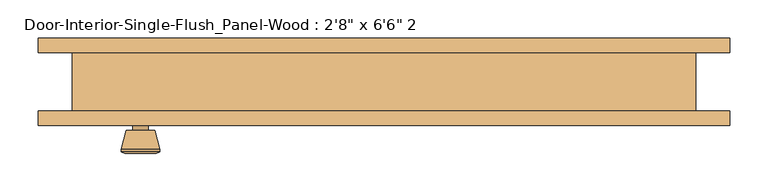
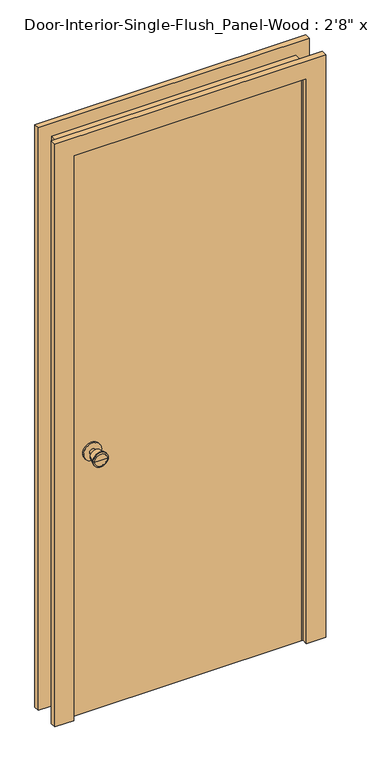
"""IFC4 building model written with IfcOpenShell, lengths in millimetres: door geometry."""

from ifc_helpers import new_model, si_unit, point, frame, frame_2d, origin, origin_with_axes, place, context, project, spatial, polyline, circle_curve, trimmed, segment, composite_curve, outline, extrude, faceted_brep, source, transform, mapped, element, save
from ifc_brep_helpers import plane_surface, cylinder_surface, revolved_surface, advanced_brep


def door_e4af89d0(model_context):
    return source(origin(), model_context, "Body", "SolidModel", [
        advanced_brep(
        [(-317.5, 6.0, 914.4), (-327.5, 6.0, 914.4), (-307.5, 6.0, 914.4), (-297.0241324, 55.0, 914.4), (-337.9758676, 55.0, 914.4), (-317.5, 55.0, 914.4), (-292.5, 53.1721319, 914.4), (-342.5, 53.1721319, 914.4), (-292.5, 49.7084537, 914.4), (-342.5, 49.7084537, 914.4), (-298.863764, 25.0, 914.4), (-336.136236, 25.0, 914.4), (-307.5, 25.0, 914.4), (-327.5, 25.0, 914.4)],
        [
            (0, 1),
            (1, 2, circle_curve(frame((-317.5, 6.0, 914.4), z_axis=(0.0, -1.0, 0.0), x_axis=(-1.0, 0.0, 0.0)), 10.0)),
            (2, 0),
            (2, 1, circle_curve(frame((-317.5, 6.0, 914.4), z_axis=(0.0, -1.0, 0.0), x_axis=(-1.0, 0.0, 0.0)), 10.0)),
            (3, 4, circle_curve(frame((-317.5, 55.0, 914.4), z_axis=(0.0, 1.0, 0.0), x_axis=(-1.0, 0.0, 0.0)), 20.4758676)),
            (4, 5),
            (5, 3),
            (4, 3, circle_curve(frame((-317.5, 55.0, 914.4), z_axis=(0.0, 1.0, 0.0), x_axis=(-1.0, 0.0, 0.0)), 20.4758676)),
            (6, 7, circle_curve(frame((-317.5, 53.1721319, 914.4), z_axis=(0.0, 1.0, 0.0), x_axis=(-1.0, 0.0, 0.0)), 25.0)),
            (7, 4),
            (3, 6),
            (7, 6, circle_curve(frame((-317.5, 53.1721319, 914.4), z_axis=(0.0, 1.0, 0.0), x_axis=(-1.0, 0.0, 0.0)), 25.0)),
            (8, 9, circle_curve(frame((-317.5, 49.7084537, 914.4), z_axis=(0.0, 1.0, 0.0), x_axis=(-1.0, 0.0, 0.0)), 25.0)),
            (9, 7),
            (6, 8),
            (9, 8, circle_curve(frame((-317.5, 49.7084537, 914.4), z_axis=(0.0, 1.0, 0.0), x_axis=(-1.0, 0.0, 0.0)), 25.0)),
            (10, 11, circle_curve(frame((-317.5, 25.0, 914.4), z_axis=(0.0, 1.0, 0.0), x_axis=(-1.0, 0.0, 0.0)), 18.636236)),
            (11, 9),
            (8, 10),
            (11, 10, circle_curve(frame((-317.5, 25.0, 914.4), z_axis=(0.0, 1.0, 0.0), x_axis=(-1.0, 0.0, 0.0)), 18.636236)),
            (12, 13, circle_curve(frame((-317.5, 25.0, 914.4), z_axis=(0.0, 1.0, 0.0), x_axis=(-1.0, 0.0, 0.0)), 10.0)),
            (13, 11),
            (10, 12),
            (13, 12, circle_curve(frame((-317.5, 25.0, 914.4), z_axis=(0.0, 1.0, 0.0), x_axis=(-1.0, 0.0, 0.0)), 10.0)),
            (1, 13),
            (12, 2),
        ],
        [
            plane_surface(frame((-317.5, 6.0, 914.4), z_axis=(0.0, -1.0, 0.0), x_axis=(-1.0, 0.0, 0.0))),
            plane_surface(frame((-317.5, 55.0, 914.4), z_axis=(0.0, 1.0, 0.0), x_axis=(-1.0, 0.0, 0.0))),
            revolved_surface(polyline([(-337.9758676, 55.0, 914.4), (-342.5, 53.1721319, 914.4)]), (-317.5, 6.0, 914.4), (0.0, -1.0, 0.0)),
            cylinder_surface(frame((-317.5, 6.0, 914.4), z_axis=(0.0, -1.0, 0.0), x_axis=(-1.0, 0.0, 0.0)), 25.0),
            revolved_surface(polyline([(-342.5, 49.7084537, 914.4), (-336.136236, 25.0, 914.4)]), (-317.5, 6.0, 914.4), (0.0, -1.0, 0.0)),
            plane_surface(frame((-317.5, 25.0, 914.4), z_axis=(0.0, -1.0, 0.0), x_axis=(-1.0, 0.0, 0.0))),
            cylinder_surface(frame((-317.5, 6.0, 914.4), z_axis=(0.0, -1.0, 0.0), x_axis=(-1.0, 0.0, 0.0)), 10.0),
        ],
        [
            (0, [[1, 2, 3]]),
            (0, [[-3, 4, -1]]),
            (1, [[5, 6, 7]]),
            (1, [[8, -7, -6]]),
            (2, [[9, 10, -5, 11]]),
            (2, [[12, -11, -8, -10]]),
            (3, [[13, 14, -9, 15]]),
            (3, [[16, -15, -12, -14]]),
            (4, [[17, 18, -13, 19]]),
            (4, [[20, -19, -16, -18]]),
            (5, [[21, 22, -17, 23]]),
            (5, [[24, -23, -20, -22]]),
            (6, [[-2, 25, -21, 26]]),
            (6, [[-4, -26, -24, -25]]),
        ],
    ),
        extrude(outline(composite_curve([segment(trimmed(circle_curve(frame_2d((914.4, -317.5)), 30.0), [point((914.4, -347.5))], [point((914.4, -287.5))], False, "CARTESIAN"), True, "CONTINUOUS"), segment(trimmed(circle_curve(frame_2d((914.4, -317.5)), 30.0), [point((914.4, -287.5))], [point((914.4, -347.5))], False, "CARTESIAN"), True, "CONTINUOUS")], self_intersect=False)), frame((0.0, 0.0, 0.0), z_axis=(0.0, 1.0, 0.0), x_axis=(0.0, 0.0, 1.0)), (0.0, 0.0, 1.0), 6.0),
        advanced_brep(
        [(-317.5, -40.925, 914.4), (-307.5, -40.925, 914.4), (-327.5, -40.925, 914.4), (-297.0241324, -89.925, 914.4), (-317.5, -89.925, 914.4), (-337.9758676, -89.925, 914.4), (-292.5, -88.0971319, 914.4), (-342.5, -88.0971319, 914.4), (-292.5, -84.6334537, 914.4), (-342.5, -84.6334537, 914.4), (-298.863764, -59.925, 914.4), (-336.136236, -59.925, 914.4), (-307.5, -59.925, 914.4), (-327.5, -59.925, 914.4)],
        [
            (0, 1),
            (1, 2, circle_curve(frame((-317.5, -40.925, 914.4), z_axis=(0.0, 1.0, 0.0), x_axis=(-1.0, 0.0, 0.0)), 10.0)),
            (2, 0),
            (2, 1, circle_curve(frame((-317.5, -40.925, 914.4), z_axis=(0.0, 1.0, 0.0), x_axis=(-1.0, 0.0, 0.0)), 10.0)),
            (3, 4),
            (4, 5),
            (5, 3, circle_curve(frame((-317.5, -89.925, 914.4), z_axis=(0.0, -1.0, 0.0), x_axis=(-1.0, 0.0, 0.0)), 20.4758676)),
            (3, 5, circle_curve(frame((-317.5, -89.925, 914.4), z_axis=(0.0, -1.0, 0.0), x_axis=(-1.0, 0.0, 0.0)), 20.4758676)),
            (6, 3),
            (5, 7),
            (7, 6, circle_curve(frame((-317.5, -88.0971319, 914.4), z_axis=(0.0, -1.0, 0.0), x_axis=(-1.0, 0.0, 0.0)), 25.0)),
            (6, 7, circle_curve(frame((-317.5, -88.0971319, 914.4), z_axis=(0.0, -1.0, 0.0), x_axis=(-1.0, 0.0, 0.0)), 25.0)),
            (8, 6),
            (7, 9),
            (9, 8, circle_curve(frame((-317.5, -84.6334537, 914.4), z_axis=(0.0, -1.0, 0.0), x_axis=(-1.0, 0.0, 0.0)), 25.0)),
            (8, 9, circle_curve(frame((-317.5, -84.6334537, 914.4), z_axis=(0.0, -1.0, 0.0), x_axis=(-1.0, 0.0, 0.0)), 25.0)),
            (10, 8),
            (9, 11),
            (11, 10, circle_curve(frame((-317.5, -59.925, 914.4), z_axis=(0.0, -1.0, 0.0), x_axis=(-1.0, 0.0, 0.0)), 18.636236)),
            (10, 11, circle_curve(frame((-317.5, -59.925, 914.4), z_axis=(0.0, -1.0, 0.0), x_axis=(-1.0, 0.0, 0.0)), 18.636236)),
            (12, 10),
            (11, 13),
            (13, 12, circle_curve(frame((-317.5, -59.925, 914.4), z_axis=(0.0, -1.0, 0.0), x_axis=(-1.0, 0.0, 0.0)), 10.0)),
            (12, 13, circle_curve(frame((-317.5, -59.925, 914.4), z_axis=(0.0, -1.0, 0.0), x_axis=(-1.0, 0.0, 0.0)), 10.0)),
            (1, 12),
            (13, 2),
        ],
        [
            plane_surface(frame((-317.5, -40.925, 914.4), z_axis=(0.0, 1.0, 0.0), x_axis=(-1.0, 0.0, 0.0))),
            plane_surface(frame((-317.5, -89.925, 914.4), z_axis=(0.0, -1.0, 0.0), x_axis=(-1.0, 0.0, 0.0))),
            revolved_surface(polyline([(-337.9758676, -89.925, 914.4), (-342.5, -88.0971319, 914.4)]), (-317.5, -40.925, 914.4), (0.0, 1.0, 0.0)),
            cylinder_surface(frame((-317.5, -40.925, 914.4), z_axis=(0.0, 1.0, 0.0), x_axis=(-1.0, 0.0, 0.0)), 25.0),
            revolved_surface(polyline([(-342.5, -84.6334537, 914.4), (-336.136236, -59.925, 914.4)]), (-317.5, -40.925, 914.4), (0.0, 1.0, 0.0)),
            plane_surface(frame((-317.5, -59.925, 914.4), z_axis=(0.0, 1.0, 0.0), x_axis=(-1.0, 0.0, 0.0))),
            cylinder_surface(frame((-317.5, -40.925, 914.4), z_axis=(0.0, 1.0, 0.0), x_axis=(-1.0, 0.0, 0.0)), 10.0),
        ],
        [
            (0, [[1, 2, 3]]),
            (0, [[-3, 4, -1]]),
            (1, [[5, 6, 7]]),
            (1, [[-6, -5, 8]]),
            (2, [[9, -7, 10, 11]]),
            (2, [[-10, -8, -9, 12]]),
            (3, [[13, -11, 14, 15]]),
            (3, [[-14, -12, -13, 16]]),
            (4, [[17, -15, 18, 19]]),
            (4, [[-18, -16, -17, 20]]),
            (5, [[21, -19, 22, 23]]),
            (5, [[-22, -20, -21, 24]]),
            (6, [[25, -23, 26, -2]]),
            (6, [[-26, -24, -25, -4]]),
        ],
    ),
        extrude(outline(composite_curve([segment(trimmed(circle_curve(frame_2d((914.4, -317.5)), 30.0), [point((914.4, -347.5))], [point((914.4, -287.5))], False, "CARTESIAN"), True, "CONTINUOUS"), segment(trimmed(circle_curve(frame_2d((914.4, -317.5)), 30.0), [point((914.4, -287.5))], [point((914.4, -347.5))], False, "CARTESIAN"), True, "CONTINUOUS")], self_intersect=False)), frame((0.0, -40.925, 0.0), z_axis=(0.0, 1.0, 0.0), x_axis=(0.0, 0.0, 1.0)), (0.0, 0.0, 1.0), 6.0),
        extrude(outline(polyline([(381.0, 0.0), (381.0, -34.925), (-381.0, -34.925), (-381.0, 0.0), (381.0, 0.0)])), origin_with_axes(), (0.0, 0.0, 1.0), 1981.2),
        faceted_brep([(406.4, -34.925, 0.0), (381.0, -34.925, 0.0), (381.0, 0.0, 0.0), (368.3, 0.0, 0.0), (368.3, 34.925, 0.0), (381.0, 34.925, 0.0), (381.0, 41.275, 0.0), (406.4, 41.275, 0.0), (406.4, 41.275, 2006.6), (406.4, -34.925, 2006.6), (381.0, 41.275, 1981.2), (-381.0, 41.275, 1981.2), (-381.0, 41.275, 0.0), (-406.4, 41.275, 0.0), (-406.4, 41.275, 2006.6), (381.0, 34.925, 1981.2), (368.3, 34.925, 1968.5), (-368.3, 34.925, 1968.5), (-368.3, 34.925, 0.0), (-381.0, 34.925, 0.0), (-381.0, 34.925, 1981.2), (368.3, 0.0, 1968.5), (381.0, 0.0, 1981.2), (-381.0, 0.0, 1981.2), (-381.0, 0.0, 0.0), (-368.3, 0.0, 0.0), (-368.3, 0.0, 1968.5), (381.0, -34.925, 1981.2), (-406.4, -34.925, 2006.6), (-406.4, -34.925, 0.0), (-381.0, -34.925, 0.0), (-381.0, -34.925, 1981.2)], [[[0, 1, 2, 3, 4, 5, 6, 7]], [[7, 8, 9, 0]], [[6, 10, 11, 12, 13, 14, 8, 7]], [[5, 15, 10, 6]], [[4, 16, 17, 18, 19, 20, 15, 5]], [[3, 21, 16, 4]], [[2, 22, 23, 24, 25, 26, 21, 3]], [[1, 27, 22, 2]], [[0, 9, 28, 29, 30, 31, 27, 1]], [[8, 14, 28, 9]], [[15, 20, 11, 10]], [[21, 26, 17, 16]], [[27, 31, 23, 22]], [[29, 13, 12, 19, 18, 25, 24, 30]], [[14, 13, 29, 28]], [[20, 19, 12, 11]], [[26, 25, 18, 17]], [[31, 30, 24, 23]]]),
        extrude(outline(polyline([(0.0, 450.85), (2051.05, 450.85), (2051.05, -450.85), (0.0, -450.85), (0.0, -387.35), (1987.55, -387.35), (1987.55, 387.35), (0.0, 387.35), (0.0, 450.85)])), frame((0.0, 41.275, 0.0), z_axis=(0.0, 1.0, 0.0), x_axis=(0.0, 0.0, 1.0)), (0.0, 0.0, 1.0), 19.05),
        extrude(outline(polyline([(0.0, 450.85), (2051.05, 450.85), (2051.05, -450.85), (0.0, -450.85), (0.0, -387.35), (1987.55, -387.35), (1987.55, 387.35), (0.0, 387.35), (0.0, 450.85)])), frame((0.0, -53.975, 0.0), z_axis=(0.0, 1.0, 0.0), x_axis=(0.0, 0.0, 1.0)), (0.0, 0.0, 1.0), 19.05),
    ])


if __name__ == "__main__":
    model = new_model("IFC4")
    model_context = context("Model", 3, world=origin())
    ifc_project = project(units=[si_unit("LENGTHUNIT", "METRE", prefix="MILLI")], contexts=[model_context])
    site = spatial("IfcSite", under=ifc_project)
    building = spatial("IfcBuilding", under=site)
    placement = place(None, origin())
    door_shape = door_e4af89d0(model_context)
    element("IfcDoor", 1, ObjectType="Door-Interior-Single-Flush_Panel-Wood : 2'8\" x 6'6\" 2", at=placement, inside=building, context=model_context, shape_type="MappedRepresentation", body=[
        mapped(door_shape, transform((0.0, 0.0, 0.0), x_axis=(1.0, 0.0, 0.0), y_axis=(0.0, 1.0, 0.0), z_axis=(0.0, 0.0, 1.0))),
    ])
    save(model, "model.ifc")
